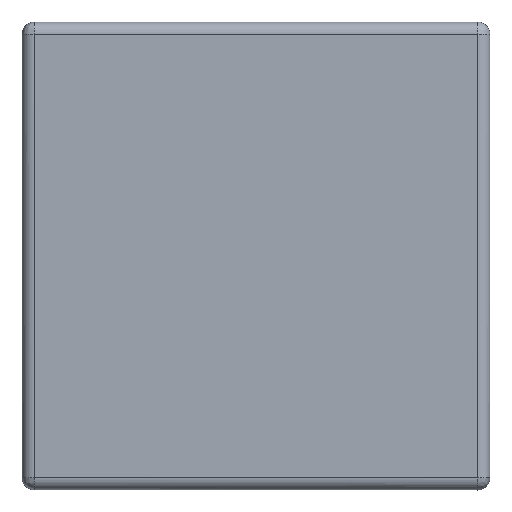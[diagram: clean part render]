
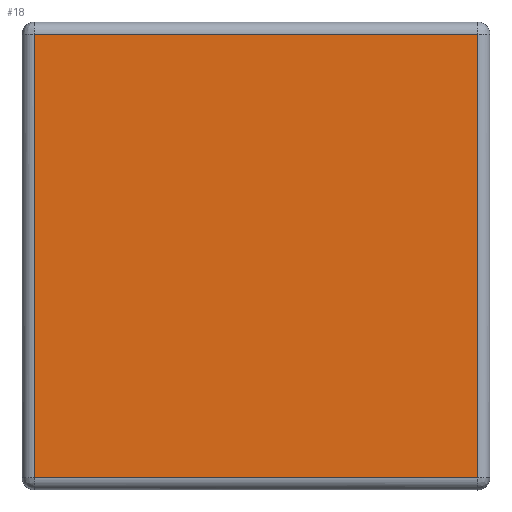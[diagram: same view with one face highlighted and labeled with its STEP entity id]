
A CAD part, top view. The second image highlights one B-rep face of the part: STEP entity #18.
In plain terms, the highlighted planar face has unit normal (0, 0, 1).
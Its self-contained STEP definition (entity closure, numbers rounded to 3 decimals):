
#18=ADVANCED_FACE('',(#44),#332,.T.);
#44=FACE_OUTER_BOUND('',#70,.T.);
#70=EDGE_LOOP('',(#108,#109,#110,#111));
#108=ORIENTED_EDGE('',*,*,#207,.F.);
#109=ORIENTED_EDGE('',*,*,#205,.F.);
#110=ORIENTED_EDGE('',*,*,#206,.F.);
#111=ORIENTED_EDGE('',*,*,#204,.F.);
#204=EDGE_CURVE('',#300,#301,#276,.T.);
#205=EDGE_CURVE('',#302,#303,#277,.T.);
#206=EDGE_CURVE('',#301,#302,#278,.T.);
#207=EDGE_CURVE('',#303,#300,#279,.T.);
#276=B_SPLINE_CURVE_WITH_KNOTS('',1,(#658,#659),.UNSPECIFIED.,.F.,.F.,(2,
2),(10.,370.),.UNSPECIFIED.);
#277=B_SPLINE_CURVE_WITH_KNOTS('',1,(#660,#661),.UNSPECIFIED.,.F.,.F.,(2,
2),(10.,370.),.UNSPECIFIED.);
#278=B_SPLINE_CURVE_WITH_KNOTS('',1,(#662,#663),.UNSPECIFIED.,.F.,.F.,(2,
2),(10.,370.),.UNSPECIFIED.);
#279=B_SPLINE_CURVE_WITH_KNOTS('',1,(#664,#665),.UNSPECIFIED.,.F.,.F.,(2,
2),(10.,370.),.UNSPECIFIED.);
#300=VERTEX_POINT('',#618);
#301=VERTEX_POINT('',#619);
#302=VERTEX_POINT('',#620);
#303=VERTEX_POINT('',#621);
#332=PLANE('',#426);
#426=AXIS2_PLACEMENT_3D('',#468,#447,$);
#447=DIRECTION('',(0.,0.,1.));
#468=CARTESIAN_POINT('',(190.001,-190.,31.));
#618=CARTESIAN_POINT('',(180.001,180.,31.));
#619=CARTESIAN_POINT('',(180.001,-180.,31.));
#620=CARTESIAN_POINT('',(-179.999,-180.,31.));
#621=CARTESIAN_POINT('',(-179.999,180.,31.));
#658=CARTESIAN_POINT('',(180.001,180.,31.));
#659=CARTESIAN_POINT('',(180.001,-180.,31.));
#660=CARTESIAN_POINT('',(-179.999,-180.,31.));
#661=CARTESIAN_POINT('',(-179.999,180.,31.));
#662=CARTESIAN_POINT('',(180.001,-180.,31.));
#663=CARTESIAN_POINT('',(-179.999,-180.,31.));
#664=CARTESIAN_POINT('',(-179.999,180.,31.));
#665=CARTESIAN_POINT('',(180.001,180.,31.));
